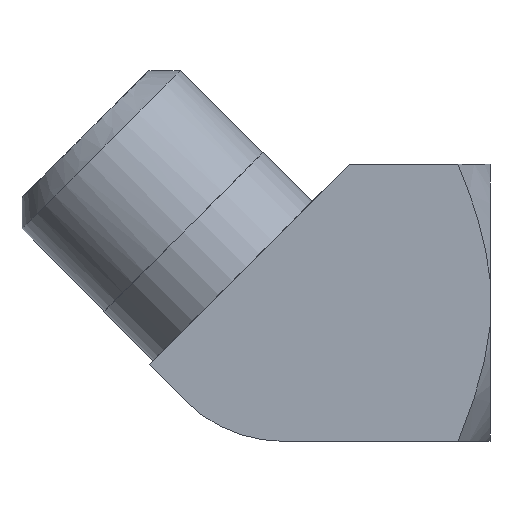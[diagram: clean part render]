
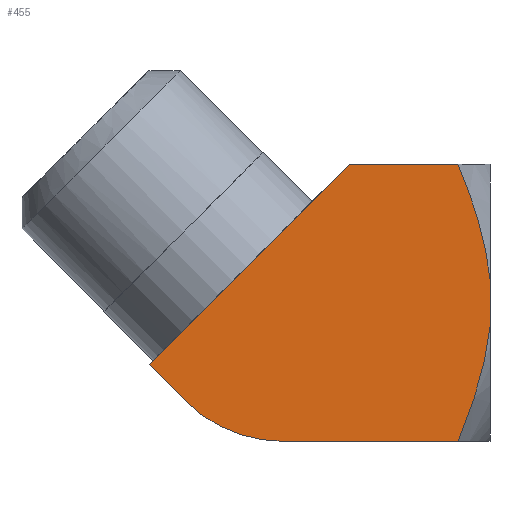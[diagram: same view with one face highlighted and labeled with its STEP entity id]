
A CAD part, front view. The second image highlights one B-rep face of the part: STEP entity #455.
In plain terms, the highlighted planar face has unit normal (0, -1, 0).
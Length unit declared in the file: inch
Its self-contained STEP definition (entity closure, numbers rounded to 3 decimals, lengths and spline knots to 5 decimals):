
#23=(
BOUNDED_CURVE()
B_SPLINE_CURVE(2,(#765,#766,#767),.UNSPECIFIED.,.F.,.F.)
B_SPLINE_CURVE_WITH_KNOTS((3,3),(0.,0.54902),.UNSPECIFIED.)
CURVE()
GEOMETRIC_REPRESENTATION_ITEM()
RATIONAL_B_SPLINE_CURVE((1.,1.064,1.))
REPRESENTATION_ITEM('')
);
#24=(
BOUNDED_CURVE()
B_SPLINE_CURVE(2,(#771,#772,#773),.UNSPECIFIED.,.F.,.F.)
B_SPLINE_CURVE_WITH_KNOTS((3,3),(0.,0.54902),
 .UNSPECIFIED.)
CURVE()
GEOMETRIC_REPRESENTATION_ITEM()
RATIONAL_B_SPLINE_CURVE((1.,1.064,1.))
REPRESENTATION_ITEM('')
);
#38=PLANE('',#500);
#52=CIRCLE('',#498,0.25);
#82=FACE_OUTER_BOUND('',#110,.T.);
#110=EDGE_LOOP('',(#334,#335,#336,#337,#338,#339,#340,#341,#342,#343));
#145=LINE('',#755,#176);
#148=LINE('',#761,#179);
#149=LINE('',#763,#180);
#150=LINE('',#769,#181);
#151=LINE('',#775,#182);
#152=LINE('',#777,#183);
#153=LINE('',#778,#184);
#176=VECTOR('',#564,0.3937);
#179=VECTOR('',#569,0.3937);
#180=VECTOR('',#570,0.3937);
#181=VECTOR('',#571,0.3937);
#182=VECTOR('',#572,0.3937);
#183=VECTOR('',#573,0.3937);
#184=VECTOR('',#574,0.3937);
#210=VERTEX_POINT('',#748);
#211=VERTEX_POINT('',#750);
#212=VERTEX_POINT('',#754);
#214=VERTEX_POINT('',#760);
#215=VERTEX_POINT('',#762);
#216=VERTEX_POINT('',#764);
#217=VERTEX_POINT('',#768);
#218=VERTEX_POINT('',#770);
#219=VERTEX_POINT('',#774);
#220=VERTEX_POINT('',#776);
#257=EDGE_CURVE('',#210,#211,#52,.T.);
#259=EDGE_CURVE('',#211,#212,#145,.T.);
#262=EDGE_CURVE('',#214,#210,#148,.T.);
#263=EDGE_CURVE('',#215,#214,#149,.T.);
#264=EDGE_CURVE('',#216,#215,#23,.T.);
#265=EDGE_CURVE('',#217,#216,#150,.T.);
#266=EDGE_CURVE('',#218,#217,#24,.T.);
#267=EDGE_CURVE('',#218,#219,#151,.T.);
#268=EDGE_CURVE('',#219,#220,#152,.T.);
#269=EDGE_CURVE('',#212,#220,#153,.T.);
#334=ORIENTED_EDGE('',*,*,#257,.F.);
#335=ORIENTED_EDGE('',*,*,#262,.F.);
#336=ORIENTED_EDGE('',*,*,#263,.F.);
#337=ORIENTED_EDGE('',*,*,#264,.F.);
#338=ORIENTED_EDGE('',*,*,#265,.F.);
#339=ORIENTED_EDGE('',*,*,#266,.F.);
#340=ORIENTED_EDGE('',*,*,#267,.T.);
#341=ORIENTED_EDGE('',*,*,#268,.T.);
#342=ORIENTED_EDGE('',*,*,#269,.F.);
#343=ORIENTED_EDGE('',*,*,#259,.F.);
#455=ADVANCED_FACE('',(#82),#38,.F.);
#498=AXIS2_PLACEMENT_3D('',#751,#559,#560);
#500=AXIS2_PLACEMENT_3D('',#759,#567,#568);
#559=DIRECTION('center_axis',(0.,1.,0.));
#560=DIRECTION('ref_axis',(-0.383,0.,-0.924));
#564=DIRECTION('',(-0.707,0.,0.707));
#567=DIRECTION('center_axis',(0.,1.,0.));
#568=DIRECTION('ref_axis',(1.,0.,0.));
#569=DIRECTION('',(-1.,0.,0.));
#570=DIRECTION('',(-1.,0.,0.));
#571=DIRECTION('',(0.,0.,-1.));
#572=DIRECTION('',(-1.,0.,0.));
#573=DIRECTION('',(-1.,0.,0.));
#574=DIRECTION('',(0.707,0.,0.707));
#748=CARTESIAN_POINT('',(-0.01386,0.,-0.25));
#750=CARTESIAN_POINT('',(-0.19064,0.,-0.17678));
#751=CARTESIAN_POINT('Origin',(-0.01386,0.,0.));
#754=CARTESIAN_POINT('',(-0.25586,0.,-0.11156));
#755=CARTESIAN_POINT('',(-0.11742,0.,-0.25));
#759=CARTESIAN_POINT('Origin',(-0.12741,0.,0.09888));
#760=CARTESIAN_POINT('',(0.25914,0.,-0.25));
#761=CARTESIAN_POINT('',(0.25914,0.,-0.25));
#762=CARTESIAN_POINT('',(0.30141,0.,-0.25));
#763=CARTESIAN_POINT('',(0.25914,0.,-0.25));
#764=CARTESIAN_POINT('',(0.35914,0.,-0.0423));
#765=CARTESIAN_POINT('Ctrl Pts',(0.35914,0.,-0.0423));
#766=CARTESIAN_POINT('Ctrl Pts',(0.35079,0.,
-0.12904));
#767=CARTESIAN_POINT('Ctrl Pts',(0.30141,0.,
-0.25));
#768=CARTESIAN_POINT('',(0.35914,0.,0.0423));
#769=CARTESIAN_POINT('',(0.35914,0.,0.125));
#770=CARTESIAN_POINT('',(0.30141,0.,0.25));
#771=CARTESIAN_POINT('Ctrl Pts',(0.30141,0.,
0.25));
#772=CARTESIAN_POINT('Ctrl Pts',(0.35079,0.,
0.12904));
#773=CARTESIAN_POINT('Ctrl Pts',(0.35914,0.,0.0423));
#774=CARTESIAN_POINT('',(0.25914,0.,0.25));
#775=CARTESIAN_POINT('',(0.25914,0.,0.25));
#776=CARTESIAN_POINT('',(0.1057,0.,0.25));
#777=CARTESIAN_POINT('',(0.25914,0.,0.25));
#778=CARTESIAN_POINT('',(-0.25586,0.,-0.11156));
